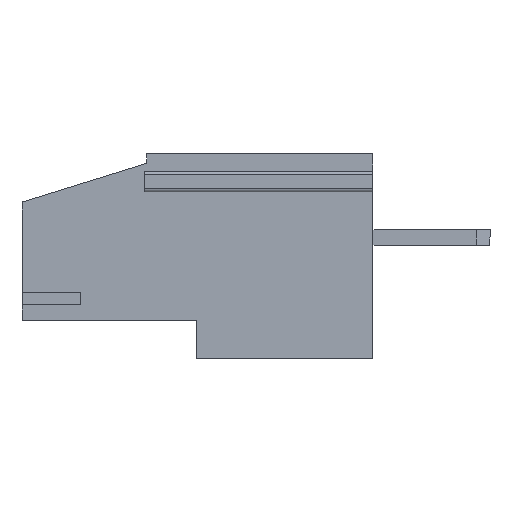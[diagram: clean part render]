
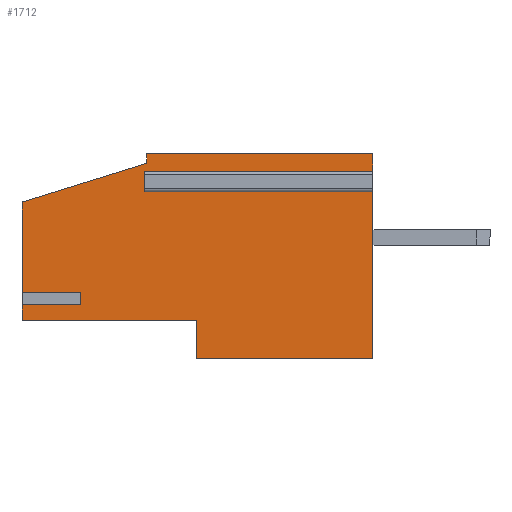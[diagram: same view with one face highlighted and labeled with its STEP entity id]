
A CAD part, left-side view. The second image highlights one B-rep face of the part: STEP entity #1712.
In plain terms, the highlighted planar face has unit normal (-1, 0, 0).
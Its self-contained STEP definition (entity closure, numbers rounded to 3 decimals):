
#35 = VECTOR ( 'NONE', #1683, 1000. ) ;
#49 = VECTOR ( 'NONE', #1668, 1000. ) ;
#54 = VECTOR ( 'NONE', #1686, 1000. ) ;
#58 = VECTOR ( 'NONE', #3447, 1000. ) ;
#59 = VECTOR ( 'NONE', #3444, 1000. ) ;
#61 = VECTOR ( 'NONE', #3441, 1000. ) ;
#62 = VECTOR ( 'NONE', #1662, 1000. ) ;
#63 = VECTOR ( 'NONE', #3438, 1000. ) ;
#64 = VECTOR ( 'NONE', #1674, 1000. ) ;
#69 = VECTOR ( 'NONE', #3429, 1000. ) ;
#73 = VECTOR ( 'NONE', #1653, 1000. ) ;
#75 = VECTOR ( 'NONE', #3423, 1000. ) ;
#78 = VECTOR ( 'NONE', #3417, 1000. ) ;
#85 = VECTOR ( 'NONE', #1704, 1000. ) ;
#87 = VECTOR ( 'NONE', #1698, 1000. ) ;
#388 = VECTOR ( 'NONE', #1596, 1000. ) ;
#434 = AXIS2_PLACEMENT_3D ( 'NONE', #794, #795, #796 ) ;
#529 = FACE_OUTER_BOUND ( 'NONE', #758, .T. ) ;
#758 = EDGE_LOOP ( 'NONE', ( #3235, #3236, #3237, #3234, #3238, #3239, #3240, #3241, #3242, #3243, #3244, #3245, #3246, #3247, #3248, #3249 ) ) ;
#793 = PLANE ( 'NONE',  #434 ) ;
#794 = CARTESIAN_POINT ( 'NONE',  ( -10.16, 0., 0. ) ) ;
#795 = DIRECTION ( 'NONE',  ( 1., 0., 0. ) ) ;
#796 = DIRECTION ( 'NONE',  ( 0., 0., -1. ) ) ;
#1594 = LINE ( 'NONE', #1595, #388 ) ;
#1595 = CARTESIAN_POINT ( 'NONE',  ( -10.16, 11.61, 10.5 ) ) ;
#1596 = DIRECTION ( 'NONE',  ( 0., 0., -1. ) ) ;
#1651 = LINE ( 'NONE', #1652, #73 ) ;
#1652 = CARTESIAN_POINT ( 'NONE',  ( -10.16, 0., 9.385 ) ) ;
#1653 = DIRECTION ( 'NONE',  ( 0., 1., 0. ) ) ;
#1660 = LINE ( 'NONE', #1661, #62 ) ;
#1661 = CARTESIAN_POINT ( 'NONE',  ( -10.16, 11.7, 0. ) ) ;
#1662 = DIRECTION ( 'NONE',  ( 0., 0., -1. ) ) ;
#1666 = LINE ( 'NONE', #1667, #49 ) ;
#1667 = CARTESIAN_POINT ( 'NONE',  ( -10.16, 0., 8.735 ) ) ;
#1668 = DIRECTION ( 'NONE',  ( 0., -1., 0. ) ) ;
#1672 = LINE ( 'NONE', #1673, #64 ) ;
#1673 = CARTESIAN_POINT ( 'NONE',  ( -10.16, 0., 0. ) ) ;
#1674 = DIRECTION ( 'NONE',  ( 0., 0., -1. ) ) ;
#1681 = LINE ( 'NONE', #1682, #35 ) ;
#1682 = CARTESIAN_POINT ( 'NONE',  ( -10.16, 0., 0. ) ) ;
#1683 = DIRECTION ( 'NONE',  ( 0., 0., -1. ) ) ;
#1684 = LINE ( 'NONE', #1685, #54 ) ;
#1685 = CARTESIAN_POINT ( 'NONE',  ( -10.16, 0., 0. ) ) ;
#1686 = DIRECTION ( 'NONE',  ( 0., 1., 0. ) ) ;
#1696 = LINE ( 'NONE', #1697, #87 ) ;
#1697 = CARTESIAN_POINT ( 'NONE',  ( -10.16, 9.07, 0. ) ) ;
#1698 = DIRECTION ( 'NONE',  ( 0., 0., 1. ) ) ;
#1702 = LINE ( 'NONE', #1703, #85 ) ;
#1703 = CARTESIAN_POINT ( 'NONE',  ( -10.16, 0., 1.95 ) ) ;
#1704 = DIRECTION ( 'NONE',  ( 0., 1., 0. ) ) ;
#1712 = ADVANCED_FACE ( 'NONE', ( #529 ), #793, .F. ) ;
#1960 = EDGE_CURVE ( 'NONE', #2536, #2538, #1594, .T. ) ;
#1979 = EDGE_CURVE ( 'NONE', #2542, #2540, #1651, .T. ) ;
#1982 = EDGE_CURVE ( 'NONE', #2540, #2530, #1660, .T. ) ;
#1984 = EDGE_CURVE ( 'NONE', #2530, #2529, #1666, .T. ) ;
#1986 = EDGE_CURVE ( 'NONE', #2529, #2528, #1672, .T. ) ;
#1989 = EDGE_CURVE ( 'NONE', #2527, #2542, #1681, .T. ) ;
#1990 = EDGE_CURVE ( 'NONE', #2528, #2526, #1684, .T. ) ;
#1994 = EDGE_CURVE ( 'NONE', #2526, #2525, #1696, .T. ) ;
#1996 = EDGE_CURVE ( 'NONE', #2525, #2520, #1702, .T. ) ;
#1999 = EDGE_CURVE ( 'NONE', #2519, #2522, #3415, .T. ) ;
#2001 = EDGE_CURVE ( 'NONE', #2522, #2521, #3421, .T. ) ;
#2003 = EDGE_CURVE ( 'NONE', #2521, #2524, #3427, .T. ) ;
#2006 = EDGE_CURVE ( 'NONE', #2524, #2523, #3436, .T. ) ;
#2007 = EDGE_CURVE ( 'NONE', #2520, #2519, #3439, .T. ) ;
#2008 = EDGE_CURVE ( 'NONE', #2523, #2538, #3442, .T. ) ;
#2009 = EDGE_CURVE ( 'NONE', #2536, #2527, #3445, .T. ) ;
#2519 = VERTEX_POINT ( 'NONE', #4332 ) ;
#2520 = VERTEX_POINT ( 'NONE', #4333 ) ;
#2521 = VERTEX_POINT ( 'NONE', #4334 ) ;
#2522 = VERTEX_POINT ( 'NONE', #4335 ) ;
#2523 = VERTEX_POINT ( 'NONE', #4336 ) ;
#2524 = VERTEX_POINT ( 'NONE', #4337 ) ;
#2525 = VERTEX_POINT ( 'NONE', #4338 ) ;
#2526 = VERTEX_POINT ( 'NONE', #4339 ) ;
#2527 = VERTEX_POINT ( 'NONE', #4340 ) ;
#2528 = VERTEX_POINT ( 'NONE', #4341 ) ;
#2529 = VERTEX_POINT ( 'NONE', #4342 ) ;
#2530 = VERTEX_POINT ( 'NONE', #4343 ) ;
#2536 = VERTEX_POINT ( 'NONE', #4349 ) ;
#2538 = VERTEX_POINT ( 'NONE', #4351 ) ;
#2540 = VERTEX_POINT ( 'NONE', #4353 ) ;
#2542 = VERTEX_POINT ( 'NONE', #4355 ) ;
#3234 = ORIENTED_EDGE ( 'NONE', *, *, #2003, .F. ) ;
#3235 = ORIENTED_EDGE ( 'NONE', *, *, #1960, .T. ) ;
#3236 = ORIENTED_EDGE ( 'NONE', *, *, #2008, .F. ) ;
#3237 = ORIENTED_EDGE ( 'NONE', *, *, #2006, .F. ) ;
#3238 = ORIENTED_EDGE ( 'NONE', *, *, #2001, .F. ) ;
#3239 = ORIENTED_EDGE ( 'NONE', *, *, #1999, .F. ) ;
#3240 = ORIENTED_EDGE ( 'NONE', *, *, #2007, .F. ) ;
#3241 = ORIENTED_EDGE ( 'NONE', *, *, #1996, .F. ) ;
#3242 = ORIENTED_EDGE ( 'NONE', *, *, #1994, .F. ) ;
#3243 = ORIENTED_EDGE ( 'NONE', *, *, #1990, .F. ) ;
#3244 = ORIENTED_EDGE ( 'NONE', *, *, #1986, .F. ) ;
#3245 = ORIENTED_EDGE ( 'NONE', *, *, #1984, .F. ) ;
#3246 = ORIENTED_EDGE ( 'NONE', *, *, #1982, .F. ) ;
#3247 = ORIENTED_EDGE ( 'NONE', *, *, #1979, .F. ) ;
#3248 = ORIENTED_EDGE ( 'NONE', *, *, #1989, .F. ) ;
#3249 = ORIENTED_EDGE ( 'NONE', *, *, #2009, .F. ) ;
#3415 = LINE ( 'NONE', #3416, #78 ) ;
#3416 = CARTESIAN_POINT ( 'NONE',  ( -10.16, 0., 2.745 ) ) ;
#3417 = DIRECTION ( 'NONE',  ( 0., -1., 0. ) ) ;
#3421 = LINE ( 'NONE', #3422, #75 ) ;
#3422 = CARTESIAN_POINT ( 'NONE',  ( -10.16, 15., 0. ) ) ;
#3423 = DIRECTION ( 'NONE',  ( 0., 0., 1. ) ) ;
#3427 = LINE ( 'NONE', #3428, #69 ) ;
#3428 = CARTESIAN_POINT ( 'NONE',  ( -10.16, 0., 3.395 ) ) ;
#3429 = DIRECTION ( 'NONE',  ( 0., 1., 0. ) ) ;
#3436 = LINE ( 'NONE', #3437, #63 ) ;
#3437 = CARTESIAN_POINT ( 'NONE',  ( -10.16, 18., 0. ) ) ;
#3438 = DIRECTION ( 'NONE',  ( 0., 0., 1. ) ) ;
#3439 = LINE ( 'NONE', #3440, #61 ) ;
#3440 = CARTESIAN_POINT ( 'NONE',  ( -10.16, 18., 0. ) ) ;
#3441 = DIRECTION ( 'NONE',  ( 0., 0., 1. ) ) ;
#3442 = LINE ( 'NONE', #3443, #59 ) ;
#3443 = CARTESIAN_POINT ( 'NONE',  ( -10.16, 18., 8.02 ) ) ;
#3444 = DIRECTION ( 'NONE',  ( 0., -0.955, 0.296 ) ) ;
#3445 = LINE ( 'NONE', #3446, #58 ) ;
#3446 = CARTESIAN_POINT ( 'NONE',  ( -10.16, 0., 10.5 ) ) ;
#3447 = DIRECTION ( 'NONE',  ( 0., -1., 0. ) ) ;
#4332 = CARTESIAN_POINT ( 'NONE',  ( -10.16, 18., 2.745 ) ) ;
#4333 = CARTESIAN_POINT ( 'NONE',  ( -10.16, 18., 1.95 ) ) ;
#4334 = CARTESIAN_POINT ( 'NONE',  ( -10.16, 15., 3.395 ) ) ;
#4335 = CARTESIAN_POINT ( 'NONE',  ( -10.16, 15., 2.745 ) ) ;
#4336 = CARTESIAN_POINT ( 'NONE',  ( -10.16, 18., 8.02 ) ) ;
#4337 = CARTESIAN_POINT ( 'NONE',  ( -10.16, 18., 3.395 ) ) ;
#4338 = CARTESIAN_POINT ( 'NONE',  ( -10.16, 9.07, 1.95 ) ) ;
#4339 = CARTESIAN_POINT ( 'NONE',  ( -10.16, 9.07, 0. ) ) ;
#4340 = CARTESIAN_POINT ( 'NONE',  ( -10.16, 0., 10.5 ) ) ;
#4341 = CARTESIAN_POINT ( 'NONE',  ( -10.16, 0., 0. ) ) ;
#4342 = CARTESIAN_POINT ( 'NONE',  ( -10.16, 0., 8.735 ) ) ;
#4343 = CARTESIAN_POINT ( 'NONE',  ( -10.16, 11.7, 8.735 ) ) ;
#4349 = CARTESIAN_POINT ( 'NONE',  ( -10.16, 11.61, 10.5 ) ) ;
#4351 = CARTESIAN_POINT ( 'NONE',  ( -10.16, 11.61, 10. ) ) ;
#4353 = CARTESIAN_POINT ( 'NONE',  ( -10.16, 11.7, 9.385 ) ) ;
#4355 = CARTESIAN_POINT ( 'NONE',  ( -10.16, 0., 9.385 ) ) ;
